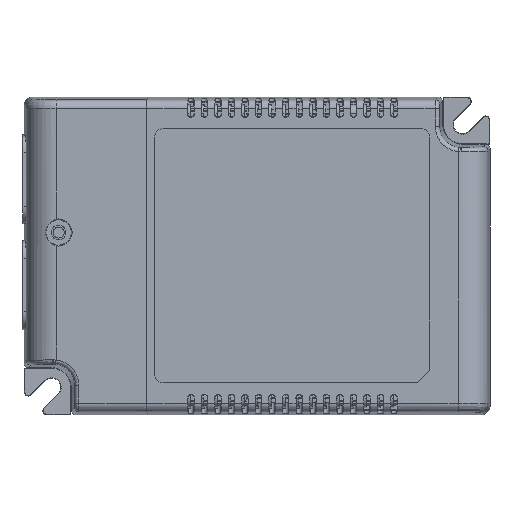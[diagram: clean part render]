
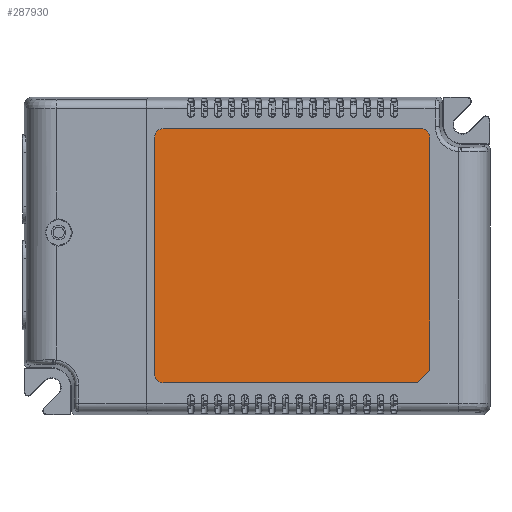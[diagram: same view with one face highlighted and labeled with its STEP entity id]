
A CAD part, top view. The second image highlights one B-rep face of the part: STEP entity #287930.
In plain terms, the highlighted planar face has unit normal (0, 0, 1).
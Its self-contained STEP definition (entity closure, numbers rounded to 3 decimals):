
#286170=CARTESIAN_POINT('',(88.722,60.818,21.8));
#286180=DIRECTION('',(-1.,0.,0.));
#286190=VECTOR('',#286180,1.);
#286200=LINE('',#286170,#286190);
#286210=CARTESIAN_POINT('',(88.722,60.818,21.8));
#286220=VERTEX_POINT('',#286210);
#286230=CARTESIAN_POINT('',(27.722,60.818,21.8));
#286240=VERTEX_POINT('',#286230);
#286250=EDGE_CURVE('',#286220,#286240,#286200,.T.);
#286500=CARTESIAN_POINT('',(27.722,58.818,21.8));
#286510=DIRECTION('',(0.,0.,1.));
#286520=DIRECTION('',(0.,1.,0.));
#286530=AXIS2_PLACEMENT_3D('',#286500,#286510,#286520);
#286540=CIRCLE('',#286530,2.);
#286550=CARTESIAN_POINT('',(25.722,58.818,21.8));
#286560=VERTEX_POINT('',#286550);
#286570=EDGE_CURVE('',#286240,#286560,#286540,.T.);
#286730=CARTESIAN_POINT('',(27.722,0.818,21.8));
#286740=DIRECTION('',(1.,0.,0.));
#286750=VECTOR('',#286740,1.);
#286760=LINE('',#286730,#286750);
#286770=CARTESIAN_POINT('',(27.722,0.818,21.8));
#286780=VERTEX_POINT('',#286770);
#286790=CARTESIAN_POINT('',(87.722,0.818,21.8));
#286800=VERTEX_POINT('',#286790);
#286810=EDGE_CURVE('',#286780,#286800,#286760,.T.);
#287090=CARTESIAN_POINT('',(90.722,58.818,21.8));
#287100=VERTEX_POINT('',#287090);
#287130=CARTESIAN_POINT('',(88.722,58.818,21.8));
#287140=DIRECTION('',(0.,0.,1.));
#287150=DIRECTION('',(1.,0.,0.));
#287160=AXIS2_PLACEMENT_3D('',#287130,#287140,#287150);
#287170=CIRCLE('',#287160,2.);
#287180=EDGE_CURVE('',#287100,#286220,#287170,.T.);
#287340=CARTESIAN_POINT('',(90.722,3.818,21.8));
#287350=VERTEX_POINT('',#287340);
#287380=CARTESIAN_POINT('',(90.722,3.818,21.8));
#287390=DIRECTION('',(0.,1.,0.));
#287400=VECTOR('',#287390,1.);
#287410=LINE('',#287380,#287400);
#287420=EDGE_CURVE('',#287350,#287100,#287410,.T.);
#287530=CARTESIAN_POINT('',(87.722,0.818,21.8));
#287540=DIRECTION('',(0.707,0.707,0.));
#287550=VECTOR('',#287540,1.);
#287560=LINE('',#287530,#287550);
#287570=EDGE_CURVE('',#286800,#287350,#287560,.T.);
#287650=CARTESIAN_POINT('',(86.039,39.161,21.8));
#287660=DIRECTION('',(0.,0.,1.));
#287670=DIRECTION('',(1.,0.,0.));
#287680=AXIS2_PLACEMENT_3D('',#287650,#287660,#287670);
#287690=PLANE('',#287680);
#287700=ORIENTED_EDGE('',*,*,#287180,.T.);
#287710=ORIENTED_EDGE('',*,*,#287420,.T.);
#287720=ORIENTED_EDGE('',*,*,#287570,.T.);
#287730=ORIENTED_EDGE('',*,*,#286810,.T.);
#287740=CARTESIAN_POINT('',(27.722,2.818,21.8));
#287750=DIRECTION('',(0.,0.,1.));
#287760=DIRECTION('',(-1.,0.,0.));
#287770=AXIS2_PLACEMENT_3D('',#287740,#287750,#287760);
#287780=CIRCLE('',#287770,2.);
#287790=CARTESIAN_POINT('',(25.722,2.818,21.8));
#287800=VERTEX_POINT('',#287790);
#287810=EDGE_CURVE('',#287800,#286780,#287780,.T.);
#287820=ORIENTED_EDGE('',*,*,#287810,.T.);
#287830=CARTESIAN_POINT('',(25.722,58.818,21.8));
#287840=DIRECTION('',(0.,-1.,0.));
#287850=VECTOR('',#287840,1.);
#287860=LINE('',#287830,#287850);
#287870=EDGE_CURVE('',#286560,#287800,#287860,.T.);
#287880=ORIENTED_EDGE('',*,*,#287870,.T.);
#287890=ORIENTED_EDGE('',*,*,#286570,.T.);
#287900=ORIENTED_EDGE('',*,*,#286250,.T.);
#287910=EDGE_LOOP('',(#287900,#287890,#287880,#287820,#287730,#287720,
#287710,#287700));
#287920=FACE_OUTER_BOUND('',#287910,.T.);
#287930=ADVANCED_FACE('',(#287920),#287690,.T.);
